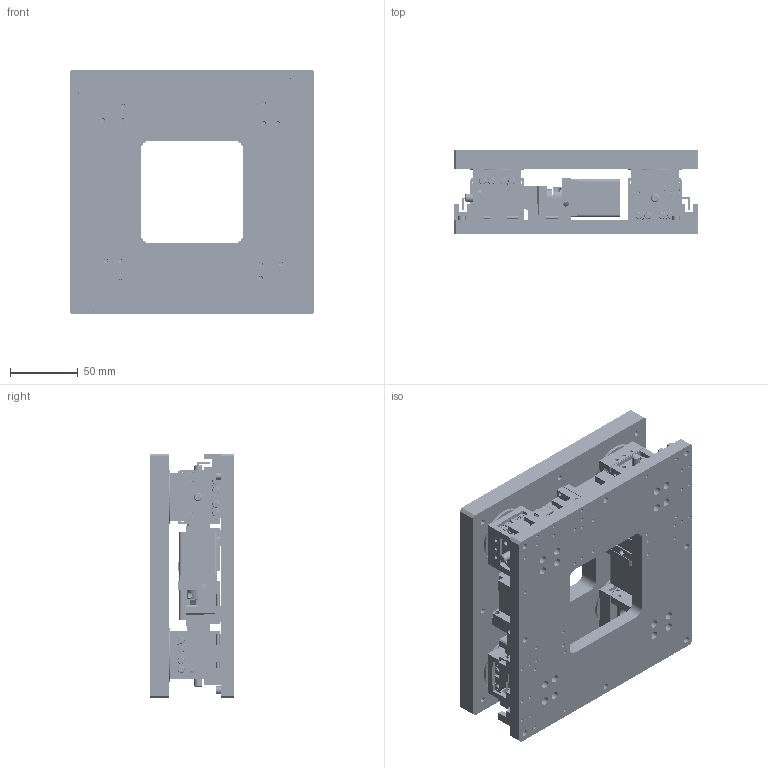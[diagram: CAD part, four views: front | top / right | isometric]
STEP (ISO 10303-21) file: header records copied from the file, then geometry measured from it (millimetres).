
FILE_DESCRIPTION (( 'STEP AP214' ), '1' );
FILE_NAME ('XXY180A-PM28.STEP', '2025-01-03T07:53:31', ( '' ), ( '' ), 'SwSTEP 2.0', 'SolidWorks 2020', '' );
FILE_SCHEMA (( 'AUTOMOTIVE_DESIGN' ));
Length unit declared in the file: millimetre
Products named in the file (1): XXY180A-PM28
Bounding box: 180 x 62 x 180 mm (x, y, z)
Surface area: 312247.1 mm2 (no closed solid volume)
Topology: 0 solids, 52 shells, 5509 faces, 14189 edges, 8939 vertices
Faces by surface type: plane 3020, cylinder 1709, cone 400, bspline 380
Entity records: 180302 total; most frequent: CARTESIAN_POINT 46134, DIRECTION 27719, ORIENTED_EDGE 27232, EDGE_CURVE 13691, AXIS2_PLACEMENT_3D 9344, VECTOR 9031, LINE 9031, VERTEX_POINT 8939
